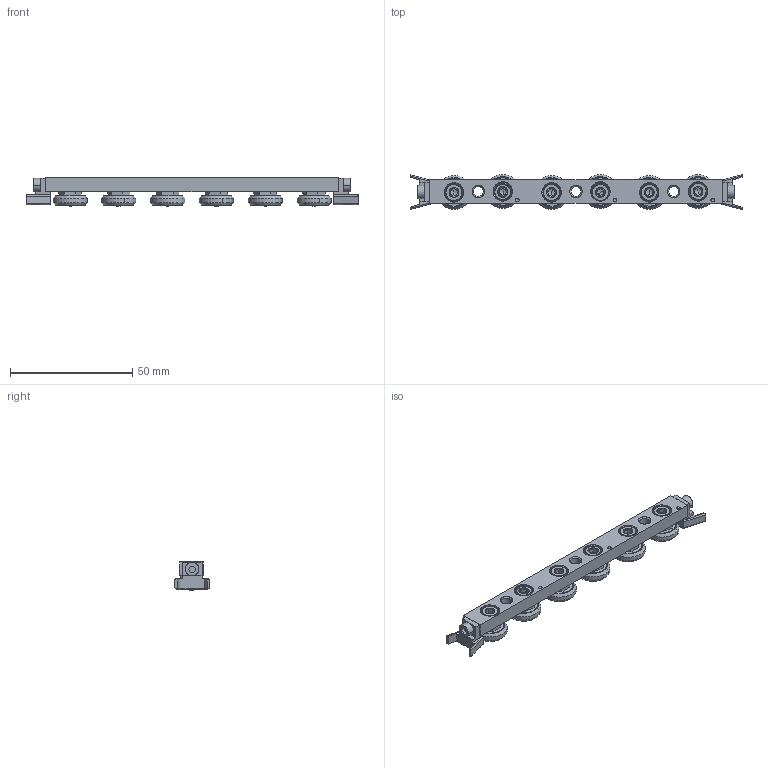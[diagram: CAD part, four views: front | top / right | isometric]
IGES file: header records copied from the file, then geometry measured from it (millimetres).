
Start section: SolidWorks IGES file using analytic representation for surfaces
Global section: file name: E:\J-00018 - L1918-L1963 LCompact Rail\L1918_v2\L1918.CSW18_v2\L1918.CSW18_IGES\L1918.CSW18-120-2RSUA.igs; native system: SolidWorks 2017; preprocessor: SolidWorks 2017; author: liam_; date: 190629.230856; units: millimetre
Bounding box: 136 x 14.33 x 11.54 mm (x, y, z)
Surface area: 10670.5 mm2 (no closed solid volume)
Topology: 0 solids, 0 shells, 624 faces, 8076 edges, 8036 vertices
Faces by surface type: bspline 342, revolution 282
